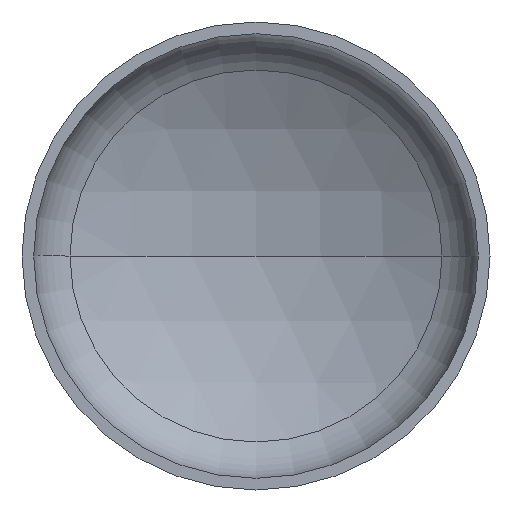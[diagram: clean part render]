
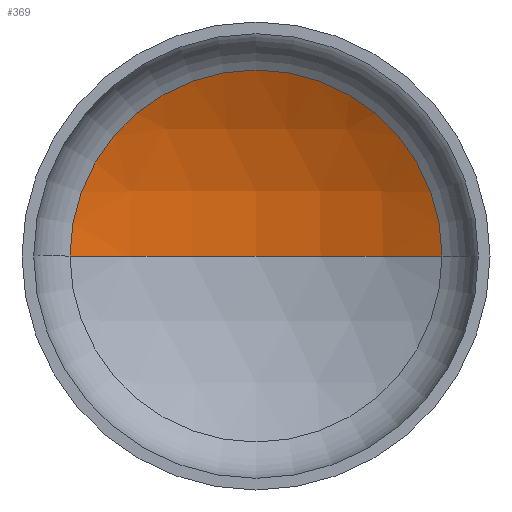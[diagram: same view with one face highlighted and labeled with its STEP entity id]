
A CAD part, front view. The second image highlights one B-rep face of the part: STEP entity #369.
In plain terms, the highlighted spherical face has radius 960 mm.
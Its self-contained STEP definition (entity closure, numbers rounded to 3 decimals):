
#1 = AXIS2_PLACEMENT_3D ( 'NONE', #339, #215, #153 ) ;
#2 = AXIS2_PLACEMENT_3D ( 'NONE', #391, #248, #409 ) ;
#5 = AXIS2_PLACEMENT_3D ( 'NONE', #284, #182, #236 ) ;
#11 = ORIENTED_EDGE ( 'NONE', *, *, #377, .T. ) ;
#25 = AXIS2_PLACEMENT_3D ( 'NONE', #345, #347, #194 ) ;
#26 = EDGE_LOOP ( 'NONE', ( #69, #11, #129 ) ) ;
#36 = VERTEX_POINT ( 'NONE', #280 ) ;
#46 = VERTEX_POINT ( 'NONE', #261 ) ;
#69 = ORIENTED_EDGE ( 'NONE', *, *, #357, .F. ) ;
#91 = VERTEX_POINT ( 'NONE', #300 ) ;
#99 = CIRCLE ( 'NONE', #2, 960. ) ;
#116 = FACE_OUTER_BOUND ( 'NONE', #26, .T. ) ;
#129 = ORIENTED_EDGE ( 'NONE', *, *, #383, .T. ) ;
#153 = DIRECTION ( 'NONE',  ( -1., 0., 0. ) ) ;
#182 = DIRECTION ( 'NONE',  ( 0., 0., 1. ) ) ;
#190 = CIRCLE ( 'NONE', #25, 476.903 ) ;
#194 = DIRECTION ( 'NONE',  ( 1., 0., 0. ) ) ;
#215 = DIRECTION ( 'NONE',  ( 0., 0., -1. ) ) ;
#236 = DIRECTION ( 'NONE',  ( 1., 0., 0. ) ) ;
#248 = DIRECTION ( 'NONE',  ( 0., 0., -1. ) ) ;
#261 = CARTESIAN_POINT ( 'NONE',  ( 476.903, 250.558, 0. ) ) ;
#280 = CARTESIAN_POINT ( 'NONE',  ( 0., 377.393, 0. ) ) ;
#284 = CARTESIAN_POINT ( 'NONE',  ( 0., -582.607, 0. ) ) ;
#300 = CARTESIAN_POINT ( 'NONE',  ( -476.903, 250.558, 0. ) ) ;
#325 = CIRCLE ( 'NONE', #5, 960. ) ;
#339 = CARTESIAN_POINT ( 'NONE',  ( 0., -582.607, 0. ) ) ;
#345 = CARTESIAN_POINT ( 'NONE',  ( 0., 250.558, 0. ) ) ;
#347 = DIRECTION ( 'NONE',  ( 0., -1., 0. ) ) ;
#357 = EDGE_CURVE ( 'NONE', #36, #91, #325, .T. ) ;
#369 = ADVANCED_FACE ( 'NONE', ( #116 ), #384, .F. ) ;
#377 = EDGE_CURVE ( 'NONE', #36, #46, #99, .T. ) ;
#383 = EDGE_CURVE ( 'NONE', #46, #91, #190, .T. ) ;
#384 = SPHERICAL_SURFACE ( 'NONE', #1, 960. ) ;
#391 = CARTESIAN_POINT ( 'NONE',  ( 0., -582.607, 0. ) ) ;
#409 = DIRECTION ( 'NONE',  ( -1., 0., 0. ) ) ;
